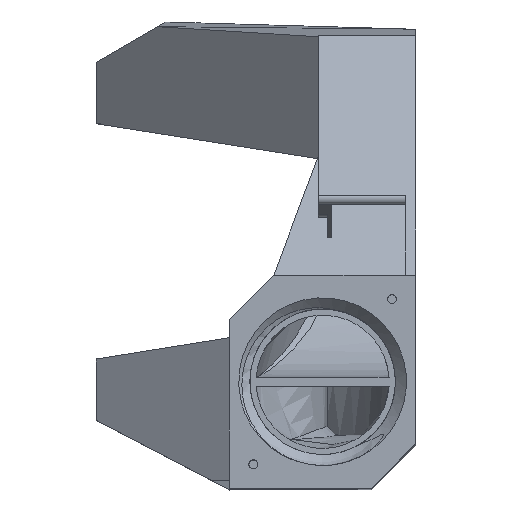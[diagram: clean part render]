
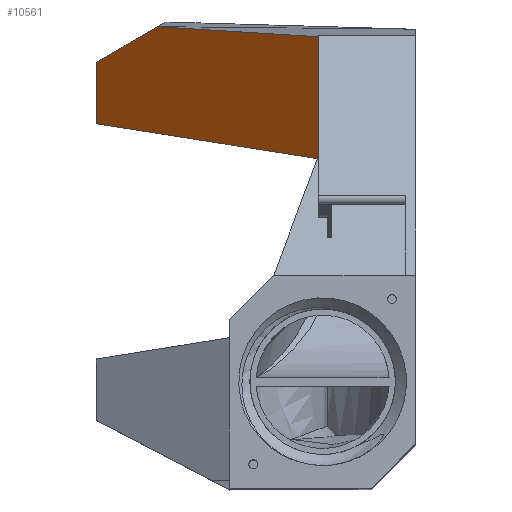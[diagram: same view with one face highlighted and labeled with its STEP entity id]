
A CAD part, top view. The second image highlights one B-rep face of the part: STEP entity #10561.
In plain terms, the highlighted planar face has unit normal (-0.632, -0.14, 0.762).
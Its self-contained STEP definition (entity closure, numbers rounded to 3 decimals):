
#485=B_SPLINE_CURVE_WITH_KNOTS('',1,(#17678,#17679),.UNSPECIFIED.,.F.,.F.,
(2,2),(0.,1.),.PIECEWISE_BEZIER_KNOTS.);
#1738=ORIENTED_EDGE('',*,*,#4626,.T.);
#1739=ORIENTED_EDGE('',*,*,#4202,.T.);
#1740=ORIENTED_EDGE('',*,*,#4731,.F.);
#1741=ORIENTED_EDGE('',*,*,#4668,.F.);
#1742=ORIENTED_EDGE('',*,*,#4632,.T.);
#4202=EDGE_CURVE('',#5802,#5803,#6817,.F.);
#4626=EDGE_CURVE('',#6149,#5802,#7118,.T.);
#4632=EDGE_CURVE('',#6152,#6149,#7124,.T.);
#4668=EDGE_CURVE('',#6152,#5827,#7142,.T.);
#4731=EDGE_CURVE('',#5827,#5803,#485,.F.);
#5802=VERTEX_POINT('',#15288);
#5803=VERTEX_POINT('',#15289);
#5827=VERTEX_POINT('',#15345);
#6149=VERTEX_POINT('',#16614);
#6152=VERTEX_POINT('',#16621);
#6817=LINE('',#15287,#7893);
#7118=LINE('',#16613,#8194);
#7124=LINE('',#16625,#8200);
#7142=LINE('',#16741,#8218);
#7893=VECTOR('',#12112,1000.);
#8194=VECTOR('',#12697,1000.);
#8200=VECTOR('',#12705,1000.);
#8218=VECTOR('',#12759,1000.);
#8877=EDGE_LOOP('',(#1738,#1739,#1740,#1741,#1742));
#9534=FACE_BOUND('',#8877,.T.);
#10097=PLANE('',#11276);
#10561=ADVANCED_FACE('',(#9534),#10097,.T.);
#11276=AXIS2_PLACEMENT_3D('',#17677,#12851,#12852);
#12112=DIRECTION('',(0.,-0.984,-0.181));
#12697=DIRECTION('',(0.775,-0.123,0.62));
#12705=DIRECTION('',(0.,-0.984,-0.181));
#12759=DIRECTION('',(0.673,0.388,0.63));
#12851=DIRECTION('',(-0.632,-0.14,0.762));
#12852=DIRECTION('',(-0.769,0.,-0.639));
#15287=CARTESIAN_POINT('',(525.05,-26.251,-64.247));
#15288=CARTESIAN_POINT('',(525.05,-41.237,-66.998));
#15289=CARTESIAN_POINT('',(525.05,-27.5,-64.476));
#15345=CARTESIAN_POINT('',(506.964,-26.344,-79.275));
#16613=CARTESIAN_POINT('',(500.05,-37.26,-87.019));
#16614=CARTESIAN_POINT('',(500.05,-37.26,-87.019));
#16621=CARTESIAN_POINT('',(500.05,-30.336,-85.747));
#16625=CARTESIAN_POINT('',(500.05,-30.336,-85.747));
#16741=CARTESIAN_POINT('',(501.096,-29.732,-84.768));
#17677=CARTESIAN_POINT('',(519.149,-25.381,-68.985));
#17678=CARTESIAN_POINT('',(525.05,-27.5,-64.476));
#17679=CARTESIAN_POINT('',(506.964,-26.344,-79.275));
